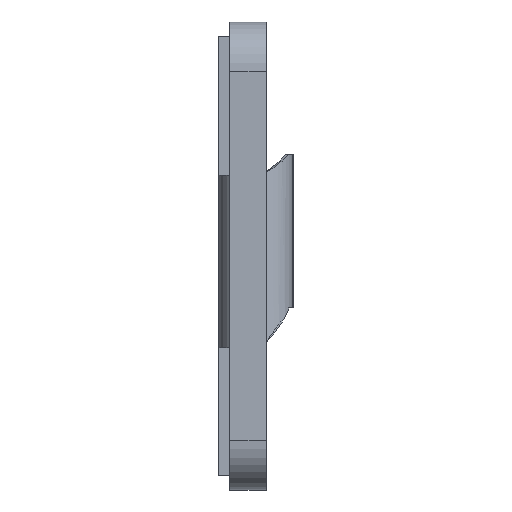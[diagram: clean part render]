
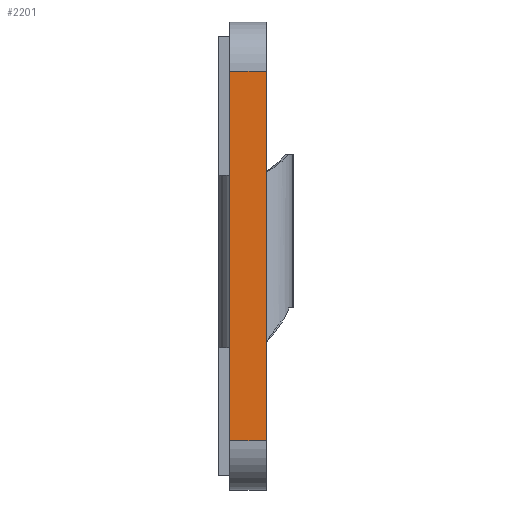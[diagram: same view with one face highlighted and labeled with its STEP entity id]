
A CAD part, left-side view. The second image highlights one B-rep face of the part: STEP entity #2201.
In plain terms, the highlighted planar face has unit normal (-1, 0, 0) as drawn and (0, 0, -1) by its records, which use the part's own axes.
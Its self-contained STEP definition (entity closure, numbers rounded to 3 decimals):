
#1416 = VERTEX_POINT ( 'NONE', #4443 ) ;
#1452 = VERTEX_POINT ( 'NONE', #4454 ) ;
#1470 = VERTEX_POINT ( 'NONE', #4457 ) ;
#1474 = VERTEX_POINT ( 'NONE', #4469 ) ;
#1576 = EDGE_CURVE ( 'NONE', #1474, #1470, #12946, .T. ) ;
#1839 = EDGE_CURVE ( 'NONE', #1470, #1452, #12499, .T. ) ;
#1845 = EDGE_CURVE ( 'NONE', #1474, #1416, #12485, .T. ) ;
#1901 = EDGE_CURVE ( 'NONE', #1416, #1452, #12639, .T. ) ;
#2201 = ADVANCED_FACE ( 'NONE', ( #9571 ), #3560, .F. ) ;
#3542 = CARTESIAN_POINT ( 'NONE',  ( -15., 3., -48. ) ) ;
#3557 = DIRECTION ( 'NONE',  ( 0., 0., 1. ) ) ;
#3560 = PLANE ( 'NONE',  #8079 ) ;
#3575 = DIRECTION ( 'NONE',  ( 1., 0., 0. ) ) ;
#4443 = CARTESIAN_POINT ( 'NONE',  ( -15., 3., -48. ) ) ;
#4454 = CARTESIAN_POINT ( 'NONE',  ( -15., 0., -48. ) ) ;
#4457 = CARTESIAN_POINT ( 'NONE',  ( 15., 0., -48. ) ) ;
#4469 = CARTESIAN_POINT ( 'NONE',  ( 15., 3., -48. ) ) ;
#4496 = DIRECTION ( 'NONE',  ( 0., -1., 0. ) ) ;
#4500 = CARTESIAN_POINT ( 'NONE',  ( 15., 3., -48. ) ) ;
#8079 = AXIS2_PLACEMENT_3D ( 'NONE', #3542, #3557, #3575 ) ;
#9571 = FACE_OUTER_BOUND ( 'NONE', #13361, .T. ) ;
#12452 = VECTOR ( 'NONE', #14422, 1000. ) ;
#12461 = VECTOR ( 'NONE', #14437, 1000. ) ;
#12485 = LINE ( 'NONE', #14405, #12461 ) ;
#12499 = LINE ( 'NONE', #14421, #12452 ) ;
#12618 = VECTOR ( 'NONE', #15969, 1000. ) ;
#12639 = LINE ( 'NONE', #15967, #12618 ) ;
#12927 = VECTOR ( 'NONE', #4496, 1000. ) ;
#12946 = LINE ( 'NONE', #4500, #12927 ) ;
#13361 = EDGE_LOOP ( 'NONE', ( #14649, #14605, #14662, #14656 ) ) ;
#14405 = CARTESIAN_POINT ( 'NONE',  ( -15., 3., -48. ) ) ;
#14421 = CARTESIAN_POINT ( 'NONE',  ( -15., 0., -48. ) ) ;
#14422 = DIRECTION ( 'NONE',  ( -1., 0., 0. ) ) ;
#14437 = DIRECTION ( 'NONE',  ( -1., 0., 0. ) ) ;
#14605 = ORIENTED_EDGE ( 'NONE', *, *, #1901, .F. ) ;
#14649 = ORIENTED_EDGE ( 'NONE', *, *, #1839, .T. ) ;
#14656 = ORIENTED_EDGE ( 'NONE', *, *, #1576, .T. ) ;
#14662 = ORIENTED_EDGE ( 'NONE', *, *, #1845, .F. ) ;
#15967 = CARTESIAN_POINT ( 'NONE',  ( -15., 3., -48. ) ) ;
#15969 = DIRECTION ( 'NONE',  ( 0., -1., 0. ) ) ;
